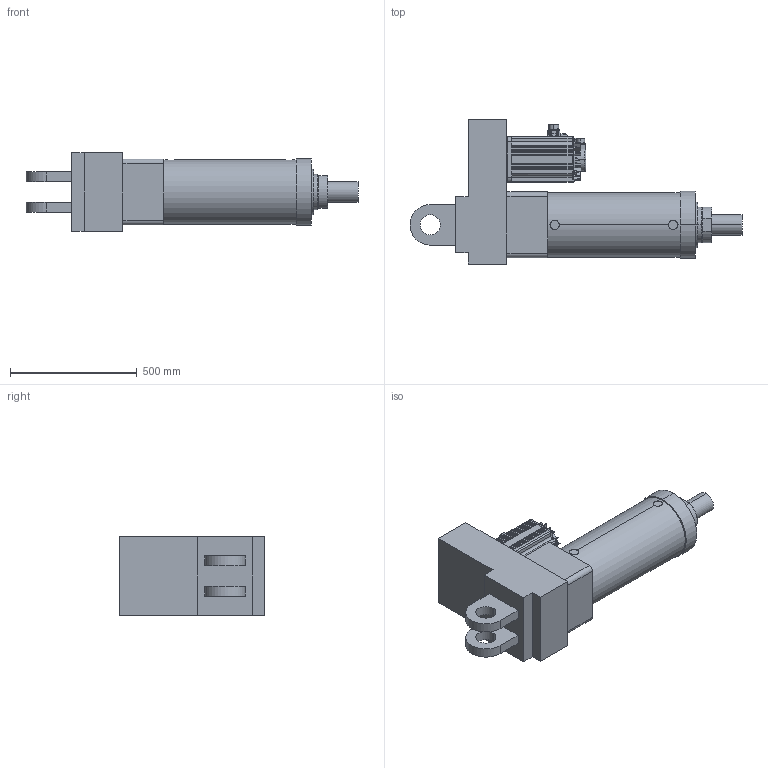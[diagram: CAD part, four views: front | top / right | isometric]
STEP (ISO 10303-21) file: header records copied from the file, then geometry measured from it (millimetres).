
FILE_DESCRIPTION (( 'STEP AP203' ), '1' );
FILE_NAME ('S9殏殿綴帣蝓假蚾.STEP', '2024-05-27T05:42:50', ( '' ), ( '' ), 'SwSTEP 2.0', 'SolidWorks 2018', '' );
FILE_SCHEMA (( 'CONFIG_CONTROL_DESIGN' ));
Length unit declared in the file: millimetre
Products named in the file (3): S9殏殿綴帣蝓; ECMA-LX1855S3-180框號系列機種-5.5KW-400V高慣量系列; S9殏殿綴帣蝓假蚾
Assembly tree (2 placements, depth 2):
  S9殏殿綴帣蝓假蚾
    S9殏殿綴帣蝓
    ECMA-LX1855S3-180框號系列機種-5.5KW-400V高慣量系列
Bounding box: 1312 x 570 x 310 mm (x, y, z)
Volume: 78473838.3 mm3; surface area: 2048816.6 mm2
Topology: 2 solids, 5 shells, 722 faces, 1676 edges, 1031 vertices
Faces by surface type: plane 365, cylinder 258, cone 48, bspline 31, torus 20
Entity records: 23030 total; most frequent: CARTESIAN_POINT 6579, ORIENTED_EDGE 3348, DIRECTION 3292, EDGE_CURVE 1674, AXIS2_PLACEMENT_3D 1177, VERTEX_POINT 1031, VECTOR 938, LINE 938
